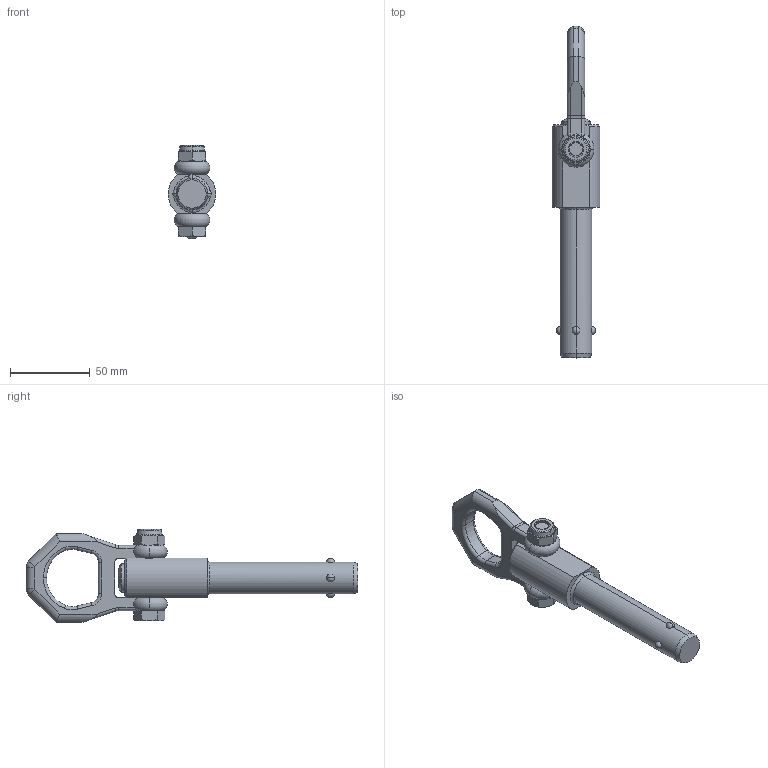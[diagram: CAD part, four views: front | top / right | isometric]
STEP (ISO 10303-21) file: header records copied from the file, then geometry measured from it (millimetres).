
FILE_DESCRIPTION (( 'STEP AP214' ), '1' );
FILE_NAME ('1130-20-50-NI.step', '2023-05-11T09:32:30', ( '' ), ( '' ), 'SwSTEP 2.0', 'SolidWorks 2022', '' );
FILE_SCHEMA (( 'AUTOMOTIVE_DESIGN' ));
Length unit declared in the file: millimetre
Products named in the file (3): Kopie von bügel^WB1130_NI; Kopie von bolzen^WB1130_NI_75; 1130-20-50-NI
Assembly tree (2 placements, depth 2):
  1130-20-50-NI
    Kopie von bolzen^WB1130_NI_75
    Kopie von bügel^WB1130_NI
Bounding box: 30 x 208.7 x 58.5 mm (x, y, z)
Volume: 92772.3 mm3; surface area: 22977 mm2
Topology: 2 solids, 2 shells, 194 faces, 480 edges, 292 vertices
Faces by surface type: cylinder 54, plane 48, torus 39, cone 39, sphere 8, bspline 6
Entity records: 6479 total; most frequent: CARTESIAN_POINT 1751, DIRECTION 983, ORIENTED_EDGE 912, EDGE_CURVE 456, AXIS2_PLACEMENT_3D 410, VERTEX_POINT 276, CIRCLE 217, EDGE_LOOP 210
